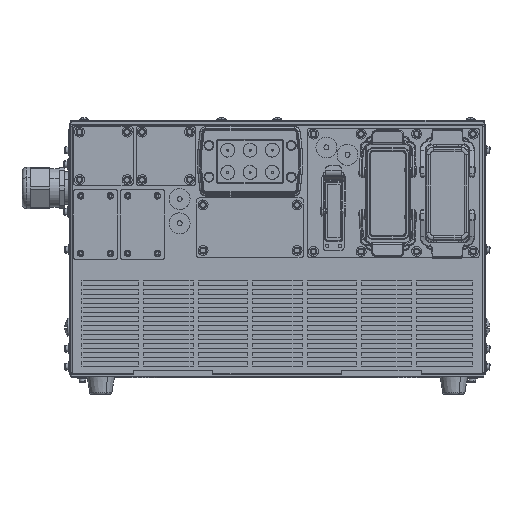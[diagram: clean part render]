
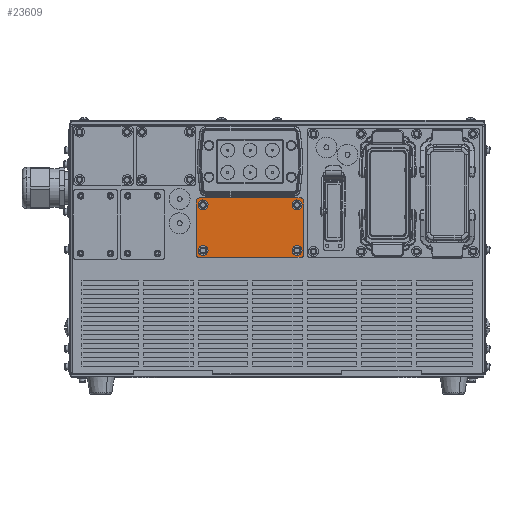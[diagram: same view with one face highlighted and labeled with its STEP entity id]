
A CAD part, left-side view. The second image highlights one B-rep face of the part: STEP entity #23609.
In plain terms, the highlighted planar face has unit normal (-1, 0, 0).
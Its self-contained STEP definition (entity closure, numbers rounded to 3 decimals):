
#11885=CARTESIAN_POINT('Vertex',(-261.,78.9,138.)) ;
#11888=CARTESIAN_POINT('Axis2P3D Location',(-261.,78.9,141.)) ;
#11892=CARTESIAN_POINT('Vertex',(-261.,81.9,141.)) ;
#11916=CARTESIAN_POINT('Vertex',(-261.,81.9,195.)) ;
#11919=CARTESIAN_POINT('Line Origine',(-261.,81.9,168.)) ;
#11936=CARTESIAN_POINT('Axis2P3D Location',(-261.,78.9,195.)) ;
#11940=CARTESIAN_POINT('Vertex',(-261.,78.9,198.)) ;
#11960=CARTESIAN_POINT('Line Origine',(-261.,27.5,198.)) ;
#11964=CARTESIAN_POINT('Vertex',(-261.,-23.9,198.)) ;
#11984=CARTESIAN_POINT('Axis2P3D Location',(-261.,-23.9,195.)) ;
#11988=CARTESIAN_POINT('Vertex',(-261.,-26.9,195.)) ;
#12008=CARTESIAN_POINT('Line Origine',(-261.,-26.9,168.)) ;
#12012=CARTESIAN_POINT('Vertex',(-261.,-26.9,141.)) ;
#12032=CARTESIAN_POINT('Axis2P3D Location',(-261.,-23.9,141.)) ;
#12036=CARTESIAN_POINT('Vertex',(-261.,-23.9,138.)) ;
#12056=CARTESIAN_POINT('Line Origine',(-261.,27.5,138.)) ;
#23522=CARTESIAN_POINT('Axis2P3D Location',(-261.,-26.9,198.)) ;
#23537=CARTESIAN_POINT('Axis2P3D Location',(-261.,74.9,145.)) ;
#23541=CARTESIAN_POINT('Vertex',(-261.,72.503,149.388)) ;
#23543=CARTESIAN_POINT('Vertex',(-261.,77.297,140.612)) ;
#23546=CARTESIAN_POINT('Axis2P3D Location',(-261.,74.9,145.)) ;
#23555=CARTESIAN_POINT('Axis2P3D Location',(-261.,-19.9,145.)) ;
#23559=CARTESIAN_POINT('Vertex',(-261.,-22.297,149.388)) ;
#23561=CARTESIAN_POINT('Vertex',(-261.,-17.503,140.612)) ;
#23564=CARTESIAN_POINT('Axis2P3D Location',(-261.,-19.9,145.)) ;
#23573=CARTESIAN_POINT('Axis2P3D Location',(-261.,74.9,191.)) ;
#23577=CARTESIAN_POINT('Vertex',(-261.,72.503,195.388)) ;
#23579=CARTESIAN_POINT('Vertex',(-261.,77.297,186.612)) ;
#23582=CARTESIAN_POINT('Axis2P3D Location',(-261.,74.9,191.)) ;
#23591=CARTESIAN_POINT('Axis2P3D Location',(-261.,-19.9,191.)) ;
#23595=CARTESIAN_POINT('Vertex',(-261.,-22.297,195.388)) ;
#23597=CARTESIAN_POINT('Vertex',(-261.,-17.503,186.612)) ;
#23600=CARTESIAN_POINT('Axis2P3D Location',(-261.,-19.9,191.)) ;
#11889=DIRECTION('Axis2P3D Direction',(1.,0.,0.)) ;
#11920=DIRECTION('Vector Direction',(0.,0.,-1.)) ;
#11937=DIRECTION('Axis2P3D Direction',(1.,0.,0.)) ;
#11961=DIRECTION('Vector Direction',(0.,-1.,0.)) ;
#11985=DIRECTION('Axis2P3D Direction',(1.,0.,0.)) ;
#12009=DIRECTION('Vector Direction',(0.,0.,1.)) ;
#12033=DIRECTION('Axis2P3D Direction',(1.,0.,0.)) ;
#12057=DIRECTION('Vector Direction',(0.,1.,0.)) ;
#23523=DIRECTION('Axis2P3D Direction',(-1.,0.,0.)) ;
#23524=DIRECTION('Axis2P3D XDirection',(0.,1.,0.)) ;
#23538=DIRECTION('Axis2P3D Direction',(-1.,0.,0.)) ;
#23547=DIRECTION('Axis2P3D Direction',(-1.,0.,0.)) ;
#23556=DIRECTION('Axis2P3D Direction',(-1.,0.,0.)) ;
#23565=DIRECTION('Axis2P3D Direction',(-1.,0.,0.)) ;
#23574=DIRECTION('Axis2P3D Direction',(-1.,0.,0.)) ;
#23583=DIRECTION('Axis2P3D Direction',(-1.,0.,0.)) ;
#23592=DIRECTION('Axis2P3D Direction',(-1.,0.,0.)) ;
#23601=DIRECTION('Axis2P3D Direction',(-1.,0.,0.)) ;
#11890=AXIS2_PLACEMENT_3D('Circle Axis2P3D',#11888,#11889,$) ;
#11938=AXIS2_PLACEMENT_3D('Circle Axis2P3D',#11936,#11937,$) ;
#11986=AXIS2_PLACEMENT_3D('Circle Axis2P3D',#11984,#11985,$) ;
#12034=AXIS2_PLACEMENT_3D('Circle Axis2P3D',#12032,#12033,$) ;
#23525=AXIS2_PLACEMENT_3D('Plane Axis2P3D',#23522,#23523,#23524) ;
#23539=AXIS2_PLACEMENT_3D('Circle Axis2P3D',#23537,#23538,$) ;
#23548=AXIS2_PLACEMENT_3D('Circle Axis2P3D',#23546,#23547,$) ;
#23557=AXIS2_PLACEMENT_3D('Circle Axis2P3D',#23555,#23556,$) ;
#23566=AXIS2_PLACEMENT_3D('Circle Axis2P3D',#23564,#23565,$) ;
#23575=AXIS2_PLACEMENT_3D('Circle Axis2P3D',#23573,#23574,$) ;
#23584=AXIS2_PLACEMENT_3D('Circle Axis2P3D',#23582,#23583,$) ;
#23593=AXIS2_PLACEMENT_3D('Circle Axis2P3D',#23591,#23592,$) ;
#23602=AXIS2_PLACEMENT_3D('Circle Axis2P3D',#23600,#23601,$) ;
#23528=ORIENTED_EDGE('',*,*,#11966,.T.) ;
#23529=ORIENTED_EDGE('',*,*,#11942,.F.) ;
#23530=ORIENTED_EDGE('',*,*,#11923,.T.) ;
#23531=ORIENTED_EDGE('',*,*,#11894,.F.) ;
#23532=ORIENTED_EDGE('',*,*,#12060,.T.) ;
#23533=ORIENTED_EDGE('',*,*,#12038,.F.) ;
#23534=ORIENTED_EDGE('',*,*,#12014,.T.) ;
#23535=ORIENTED_EDGE('',*,*,#11990,.F.) ;
#23552=ORIENTED_EDGE('',*,*,#23545,.T.) ;
#23553=ORIENTED_EDGE('',*,*,#23550,.T.) ;
#23570=ORIENTED_EDGE('',*,*,#23563,.T.) ;
#23571=ORIENTED_EDGE('',*,*,#23568,.T.) ;
#23588=ORIENTED_EDGE('',*,*,#23581,.T.) ;
#23589=ORIENTED_EDGE('',*,*,#23586,.T.) ;
#23606=ORIENTED_EDGE('',*,*,#23599,.T.) ;
#23607=ORIENTED_EDGE('',*,*,#23604,.T.) ;
#23554=FACE_BOUND('',#23551,.T.) ;
#23572=FACE_BOUND('',#23569,.T.) ;
#23590=FACE_BOUND('',#23587,.T.) ;
#23608=FACE_BOUND('',#23605,.T.) ;
#11921=VECTOR('Line Direction',#11920,1.) ;
#11962=VECTOR('Line Direction',#11961,1.) ;
#12010=VECTOR('Line Direction',#12009,1.) ;
#12058=VECTOR('Line Direction',#12057,1.) ;
#23609=ADVANCED_FACE('F04',(#23536,#23554,#23572,#23590,#23608),#23526,.T.) ;
#11891=CIRCLE('generated circle',#11890,3.) ;
#11939=CIRCLE('generated circle',#11938,3.) ;
#11987=CIRCLE('generated circle',#11986,3.) ;
#12035=CIRCLE('generated circle',#12034,3.) ;
#23540=CIRCLE('generated circle',#23539,5.) ;
#23549=CIRCLE('generated circle',#23548,5.) ;
#23558=CIRCLE('generated circle',#23557,5.) ;
#23567=CIRCLE('generated circle',#23566,5.) ;
#23576=CIRCLE('generated circle',#23575,5.) ;
#23585=CIRCLE('generated circle',#23584,5.) ;
#23594=CIRCLE('generated circle',#23593,5.) ;
#23603=CIRCLE('generated circle',#23602,5.) ;
#11894=EDGE_CURVE('',#11886,#11893,#11891,.T.) ;
#11923=EDGE_CURVE('',#11917,#11893,#11922,.T.) ;
#11942=EDGE_CURVE('',#11917,#11941,#11939,.T.) ;
#11966=EDGE_CURVE('',#11965,#11941,#11963,.F.) ;
#11990=EDGE_CURVE('',#11965,#11989,#11987,.T.) ;
#12014=EDGE_CURVE('',#12013,#11989,#12011,.T.) ;
#12038=EDGE_CURVE('',#12013,#12037,#12035,.T.) ;
#12060=EDGE_CURVE('',#11886,#12037,#12059,.F.) ;
#23545=EDGE_CURVE('',#23542,#23544,#23540,.F.) ;
#23550=EDGE_CURVE('',#23544,#23542,#23549,.F.) ;
#23563=EDGE_CURVE('',#23560,#23562,#23558,.F.) ;
#23568=EDGE_CURVE('',#23562,#23560,#23567,.F.) ;
#23581=EDGE_CURVE('',#23578,#23580,#23576,.F.) ;
#23586=EDGE_CURVE('',#23580,#23578,#23585,.F.) ;
#23599=EDGE_CURVE('',#23596,#23598,#23594,.F.) ;
#23604=EDGE_CURVE('',#23598,#23596,#23603,.F.) ;
#23527=EDGE_LOOP('',(#23528,#23529,#23530,#23531,#23532,#23533,#23534,#23535)) ;
#23551=EDGE_LOOP('',(#23552,#23553)) ;
#23569=EDGE_LOOP('',(#23570,#23571)) ;
#23587=EDGE_LOOP('',(#23588,#23589)) ;
#23605=EDGE_LOOP('',(#23606,#23607)) ;
#23536=FACE_OUTER_BOUND('',#23527,.T.) ;
#11922=LINE('Line',#11919,#11921) ;
#11963=LINE('Line',#11960,#11962) ;
#12011=LINE('Line',#12008,#12010) ;
#12059=LINE('Line',#12056,#12058) ;
#23526=PLANE('',#23525) ;
#11886=VERTEX_POINT('',#11885) ;
#11893=VERTEX_POINT('',#11892) ;
#11917=VERTEX_POINT('',#11916) ;
#11941=VERTEX_POINT('',#11940) ;
#11965=VERTEX_POINT('',#11964) ;
#11989=VERTEX_POINT('',#11988) ;
#12013=VERTEX_POINT('',#12012) ;
#12037=VERTEX_POINT('',#12036) ;
#23542=VERTEX_POINT('',#23541) ;
#23544=VERTEX_POINT('',#23543) ;
#23560=VERTEX_POINT('',#23559) ;
#23562=VERTEX_POINT('',#23561) ;
#23578=VERTEX_POINT('',#23577) ;
#23580=VERTEX_POINT('',#23579) ;
#23596=VERTEX_POINT('',#23595) ;
#23598=VERTEX_POINT('',#23597) ;
